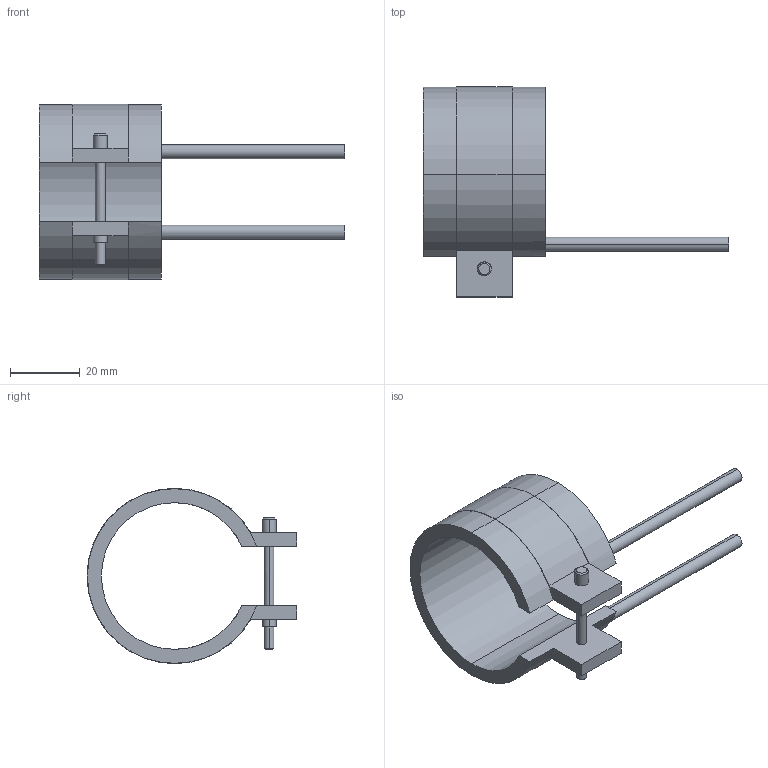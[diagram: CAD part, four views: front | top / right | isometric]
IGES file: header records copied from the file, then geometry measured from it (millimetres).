
Start section: START RECORD GO HERE.
Global section: file name: 14042035.igs; native system: DASSAULT SYSTEMES CATIA V5 R20 - www.3ds.com; preprocessor: CATIA Version 5 Release 20 ; author: Utente; organization: NB04-ASUS; date: 20210331.140324; units: millimetre
Bounding box: 87.5 x 60.1 x 50.2 mm (x, y, z)
Surface area: 12813.7 mm2 (no closed solid volume)
Topology: 0 solids, 0 shells, 45 faces, 232 edges, 232 vertices
Faces by surface type: revolution 28, plane 17
